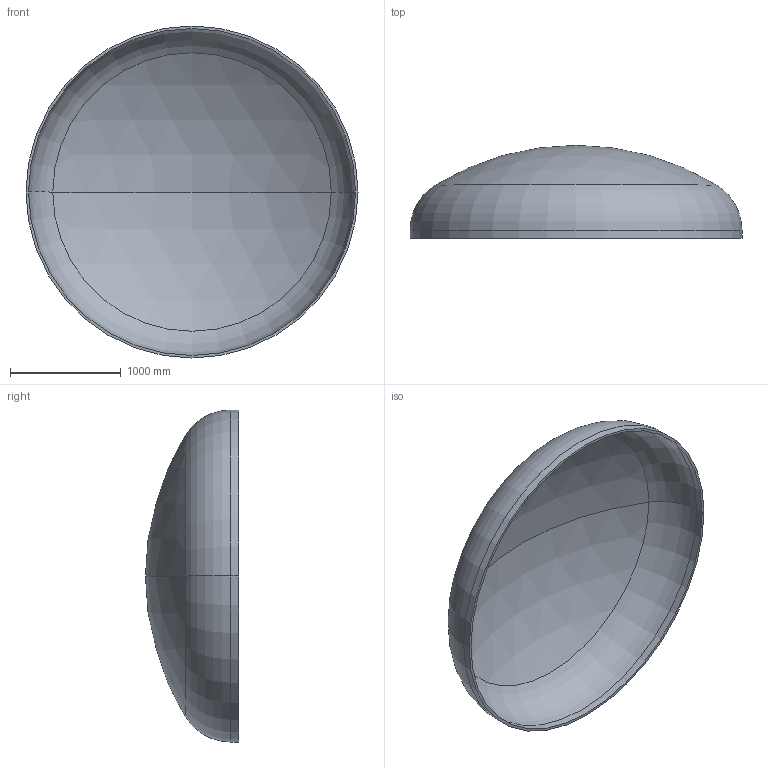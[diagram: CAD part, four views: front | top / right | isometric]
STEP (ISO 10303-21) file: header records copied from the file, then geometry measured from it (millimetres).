
FILE_DESCRIPTION (( 'STEP AP203' ), '1' );
FILE_NAME ('DIN 28013 Korbbogenform_-_Boden DIN 28013 - 3000 x 70 - I - s=23.step', '2016-07-01T17:35:57', ( '' ), ( '' ), 'SwSTEP 2.0', 'SolidWorks 2013', '' );
FILE_SCHEMA (( 'CONFIG_CONTROL_DESIGN' ));
Length unit declared in the file: millimetre
Products named in the file (1): DIN 28013 Korbbogenform_-_Boden DIN 28013 - 3000 x 70 - I - s=23
Bounding box: 3000 x 840.94 x 3000 mm (x, y, z)
Volume: 237766963.4 mm3; surface area: 20891596.1 mm2
Topology: 1 solids, 1 shells, 13 faces, 24 edges, 14 vertices
Faces by surface type: torus 4, cylinder 4, sphere 4, plane 1
Entity records: 407 total; most frequent: DIRECTION 72, CARTESIAN_POINT 52, ORIENTED_EDGE 48, AXIS2_PLACEMENT_3D 34, EDGE_CURVE 24, CIRCLE 20, VERTEX_POINT 14, EDGE_LOOP 14
